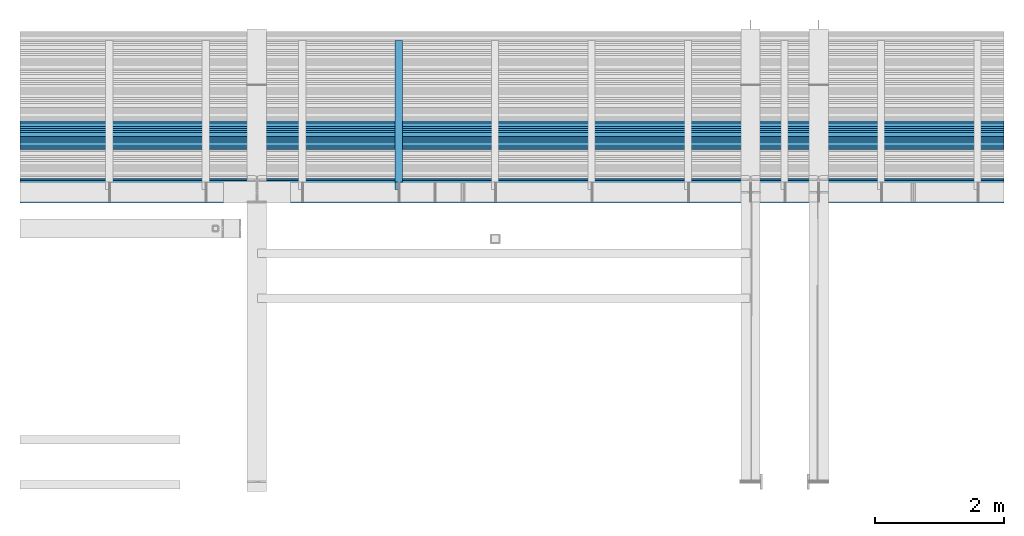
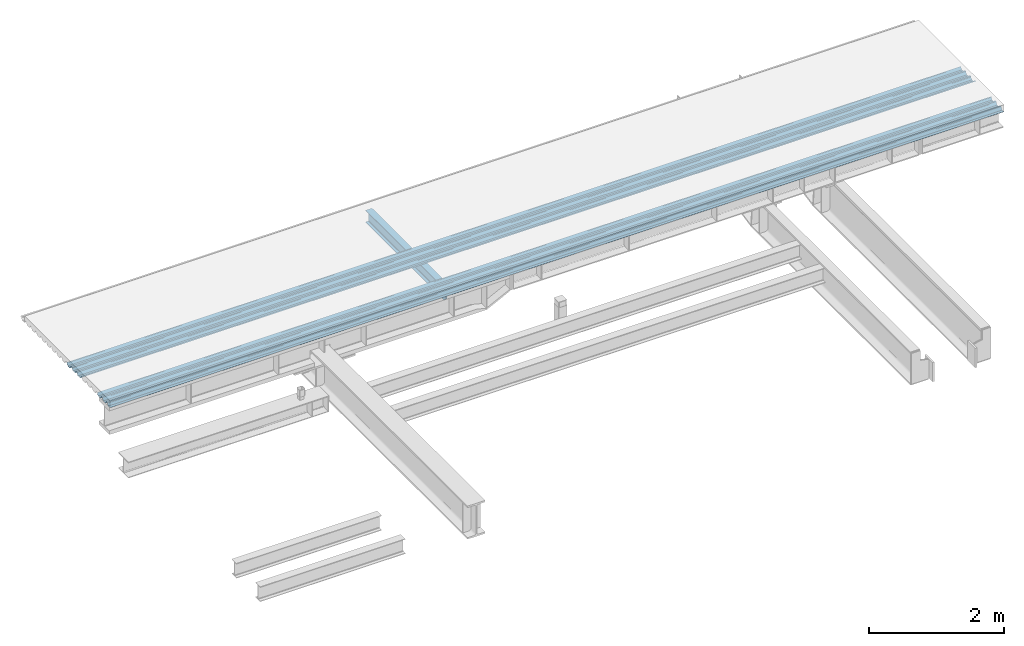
# One storey, part 7 of 12: 3 beams.
"""IFC2X3 building model written with IfcOpenShell, lengths in millimetres."""

from ifc_helpers import new_model, entity, si_unit, converted_unit, derived_unit, direction, frame, origin_with_axes, place, context, subcontext, project, spatial, faceted_brep, type_object, element, save


model = new_model("IFC2X3")

# Units and contexts
model_context = context("Model", 3, precision=0.01, world=frame((0.0, 4.29681676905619e-09, 0.0)), true_north=direction((4.01073788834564e-13, 1.0)))
plan_context = context("Plan", 3, precision=0.01, world=frame((0.0, 4.29681676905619e-09, 0.0)), true_north=direction((4.01073788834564e-13, 1.0)))
body_context = subcontext(model_context, "Body", "Model", "MODEL_VIEW")
ifc_project = project(units=[converted_unit("PLANEANGLEUNIT", "DEGREE", entity("IfcPositiveLengthMeasure", 0.0174532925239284), si_unit("PLANEANGLEUNIT", "RADIAN"), dimensions=[0, 0, 0, 0, 0, 0, 0]), si_unit("AREAUNIT", "SQUARE_METRE"), si_unit("LENGTHUNIT", "METRE", prefix="MILLI"), si_unit("MASSUNIT", "GRAM", prefix="KILO"), si_unit("POWERUNIT", "WATT"), si_unit("PRESSUREUNIT", "PASCAL"), si_unit("FORCEUNIT", "NEWTON", prefix="KILO"), si_unit("ELECTRICVOLTAGEUNIT", "VOLT"), si_unit("ELECTRICCURRENTUNIT", "AMPERE"), si_unit("THERMODYNAMICTEMPERATUREUNIT", "DEGREE_CELSIUS"), si_unit("TIMEUNIT", "SECOND"), si_unit("VOLUMEUNIT", "CUBIC_METRE"), derived_unit("LINEARVELOCITYUNIT", [(si_unit("LENGTHUNIT", "METRE"), 1), (si_unit("TIMEUNIT", "SECOND"), -1)]), derived_unit("VOLUMETRICFLOWRATEUNIT", [(si_unit("VOLUMEUNIT", "CUBIC_METRE"), 1), (si_unit("TIMEUNIT", "SECOND"), -1)]), derived_unit("THERMALTRANSMITTANCEUNIT", [(si_unit("POWERUNIT", "WATT"), 1), (si_unit("THERMODYNAMICTEMPERATUREUNIT", "KELVIN"), -1), (si_unit("AREAUNIT", "SQUARE_METRE"), -1)]), derived_unit("SOUNDPRESSUREUNIT", [(si_unit("PRESSUREUNIT", "PASCAL"), 1)])], contexts=[model_context, plan_context])

# Site, building, storey
site_placement = place(None, frame((0.0, -4.29681676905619e-09, 0.0), z_axis=(0.0, 0.0, 1.0), x_axis=(1.0, 0.0, 0.0)))
site = spatial("IfcSite", under=ifc_project, at=site_placement, Name="Gardermoen", CompositionType="ELEMENT")
building_placement = place(site_placement, frame((0.0, 4.29681676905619e-09, 0.0), z_axis=(0.0, 0.0, 1.0), x_axis=(1.0, 0.0, 0.0)))
building = spatial("IfcBuilding", under=site, at=building_placement, Name="TH", CompositionType="ELEMENT")
storey_placement = place(building_placement, origin_with_axes())
storey = spatial("IfcBuildingStorey", under=building, at=storey_placement, Name="D", CompositionType="ELEMENT", Elevation=0.0)

# Beams
beam_type_1 = type_object("IfcBeamType", Name="PLANNJACD45_H", PredefinedType="NOTDEFINED")
beam_1_placement = place(storey_placement, frame((886883.999728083, 485886.307461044, 210062.950004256), z_axis=(0.0, 0.0, 1.0), x_axis=(1.0, 0.0, 0.0)))
element("IfcBeam", 1, at=beam_1_placement, inside=storey, type_object=beam_type_1, Name="STÅLDEKKE", ObjectType="PLANNJACD45_H", context=body_context, shape_type="Brep", body=[
    faceted_brep([(8227.90644048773, 133.300002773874, -22.9500007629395), (8227.90644048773, 102.900001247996, 7.44999837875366), (23526.5851137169, 102.900001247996, 7.44999837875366), (23526.5851137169, 133.300002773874, -22.9500007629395), (8227.90644048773, 110.400001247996, 14.9500007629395), (23526.5851137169, 110.400001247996, 14.9500007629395), (8227.90644048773, 103.300002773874, 22.0500011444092), (23526.5851137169, 103.300002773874, 22.0500011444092), (8227.90644048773, 73.3000027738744, 22.0500011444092), (23526.5851137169, 73.3000027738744, 22.0500011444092), (8227.90644048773, 66.2000042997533, 14.9500007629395), (23526.5851137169, 66.2000042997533, 14.9500007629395), (8227.90644048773, 73.7000042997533, 7.4500036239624), (23526.5851137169, 73.7000042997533, 7.4500036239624), (8227.90644048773, 43.2999989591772, -22.9499988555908), (23526.5851137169, 43.2999989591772, -22.9499988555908), (8227.90644048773, -16.6999972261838, -22.9500045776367), (23526.5851137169, -16.6999972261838, -22.9500045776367), (8227.90644048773, -47.0999987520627, 7.44999837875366), (23526.5851137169, -47.0999987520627, 7.44999837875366), (8227.90644048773, -39.6000025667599, 14.9499959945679), (23526.5851137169, -39.6000025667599, 14.9499959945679), (8227.90644048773, -46.7000086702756, 22.0500011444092), (23526.5851137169, -46.7000086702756, 22.0500011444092), (8227.90644048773, -76.6999972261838, 22.0500011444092), (23526.5851137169, -76.6999972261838, 22.0500011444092), (8227.90644048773, -83.7999880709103, 14.9500064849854), (23526.5851137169, -83.7999880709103, 14.9500064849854), (8227.90644048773, -76.2999957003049, 7.4500093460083), (23526.5851137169, -76.2999957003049, 7.4500093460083), (8227.90644048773, -106.699997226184, -22.9499931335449), (23526.5851137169, -106.699997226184, -22.9499931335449), (8227.90644048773, -166.700012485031, -22.9500045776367), (23526.5851137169, -166.700012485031, -22.9500045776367), (8227.90644048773, -197.100006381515, 7.44999837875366), (23526.5851137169, -197.100006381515, 7.44999837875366), (8227.90644048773, -189.600006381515, 14.9499959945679), (23526.5851137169, -189.600006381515, 14.9499959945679), (8227.90644048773, -196.700012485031, 22.0500011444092), (23526.5851137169, -196.700012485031, 22.0500011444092), (8227.90644048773, -223.699981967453, 22.0500011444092), (23526.5851137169, -223.699981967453, 22.0500011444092), (8227.90644048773, -223.699997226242, 22.9500045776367), (23526.5851137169, -223.699997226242, 22.9500045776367), (8227.90644048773, -196.300003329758, 22.8500061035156), (23526.5851137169, -196.300003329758, 22.8500061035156), (8227.90644048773, -188.399994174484, 14.9499959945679), (23526.5851137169, -188.399994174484, 14.9499959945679), (8227.90644048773, -195.899994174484, 7.44999837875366), (23526.5851137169, -195.899994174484, 7.44999837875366), (8227.90644048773, -166.299988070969, -22.0500011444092), (23526.5851137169, -166.299988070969, -22.0500011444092), (8227.90644048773, -107.099998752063, -22.1499996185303), (23526.5851137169, -107.099998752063, -22.1499996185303), (8227.90644048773, -77.5000002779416, 7.44999837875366), (23526.5851137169, -77.5000002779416, 7.44999837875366), (8227.90644048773, -85.0000002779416, 14.9499959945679), (23526.5851137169, -85.0000002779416, 14.9499959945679), (8227.90644048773, -77.0999987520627, 22.9499931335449), (23526.5851137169, -77.0999987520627, 22.9499931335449), (8227.90644048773, -46.2999957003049, 22.8500061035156), (23526.5851137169, -46.2999957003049, 22.8500061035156), (8227.90644048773, -38.399994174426, 14.9500064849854), (23526.5851137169, -38.399994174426, 14.9500064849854), (8227.90644048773, -45.9000018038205, 7.44999837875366), (23526.5851137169, -45.9000018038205, 7.44999837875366), (8227.90644048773, -16.300005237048, -22.0500011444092), (23526.5851137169, -16.300005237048, -22.0500011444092), (8227.90644048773, 42.9000050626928, -22.1499938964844), (23526.5851137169, 42.9000050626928, -22.1499938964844), (8227.90644048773, 72.5000073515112, 7.4500036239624), (23526.5851137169, 72.5000073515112, 7.4500036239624), (8227.90644048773, 65.0000073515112, 14.9500007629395), (23526.5851137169, 65.0000073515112, 14.9500007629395), (8227.90644048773, 72.9000088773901, 22.9499988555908), (23526.5851137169, 72.9000088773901, 22.9499988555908), (8227.90644048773, 103.700004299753, 22.8500003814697), (23526.5851137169, 103.700004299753, 22.8500003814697), (8227.90644048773, 111.599998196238, 14.9500007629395), (23526.5851137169, 111.599998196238, 14.9500007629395), (8227.90644048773, 104.100005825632, 7.4500036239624), (23526.5851137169, 104.100005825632, 7.4500036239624), (8227.90644048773, 133.699996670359, -22.0499992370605), (23526.5851137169, 133.699996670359, -22.0499992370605), (8227.90644048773, 192.90000887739, -22.1499977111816), (23526.5851137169, 192.90000887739, -22.1499977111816), (8227.90644048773, 222.499999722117, 7.45000123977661), (23526.5851137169, 222.499999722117, 7.45000123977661), (8227.90644048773, 214.999999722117, 14.9500007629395), (23526.5851137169, 214.999999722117, 14.9500007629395), (8227.90644048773, 222.90000887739, 22.9500007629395), (23526.5851137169, 222.90000887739, 22.9500007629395), (8227.90644048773, 223.300002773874, 22.0500011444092), (23526.5851137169, 223.300002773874, 22.0500011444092), (8227.90644048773, 216.199996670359, 14.9500007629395), (23526.5851137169, 216.199996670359, 14.9500007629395), (8227.90644048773, 223.699996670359, 7.45000123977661), (23526.5851137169, 223.699996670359, 7.45000123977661), (8227.90644048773, 193.300002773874, -22.9499988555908), (23526.5851137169, 193.300002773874, -22.9499988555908)], [[[0, 1, 2, 3]], [[1, 4, 5, 2]], [[4, 6, 7, 5]], [[6, 8, 9, 7]], [[8, 10, 11, 9]], [[10, 12, 13, 11]], [[12, 14, 15, 13]], [[14, 16, 17, 15]], [[16, 18, 19, 17]], [[18, 20, 21, 19]], [[20, 22, 23, 21]], [[22, 24, 25, 23]], [[24, 26, 27, 25]], [[26, 28, 29, 27]], [[28, 30, 31, 29]], [[30, 32, 33, 31]], [[32, 34, 35, 33]], [[34, 36, 37, 35]], [[36, 38, 39, 37]], [[38, 40, 41, 39]], [[40, 42, 43, 41]], [[42, 44, 45, 43]], [[44, 46, 47, 45]], [[46, 48, 49, 47]], [[48, 50, 51, 49]], [[50, 52, 53, 51]], [[52, 54, 55, 53]], [[54, 56, 57, 55]], [[56, 58, 59, 57]], [[58, 60, 61, 59]], [[60, 62, 63, 61]], [[62, 64, 65, 63]], [[64, 66, 67, 65]], [[66, 68, 69, 67]], [[68, 70, 71, 69]], [[70, 72, 73, 71]], [[72, 74, 75, 73]], [[74, 76, 77, 75]], [[76, 78, 79, 77]], [[78, 80, 81, 79]], [[80, 82, 83, 81]], [[82, 84, 85, 83]], [[84, 86, 87, 85]], [[86, 88, 89, 87]], [[88, 90, 91, 89]], [[90, 92, 93, 91]], [[92, 94, 95, 93]], [[94, 96, 97, 95]], [[96, 98, 99, 97]], [[98, 0, 3, 99]], [[5, 7, 9, 11, 13, 15, 17, 19, 21, 23, 25, 27, 29, 31, 33, 35, 37, 39, 41, 43, 45, 47, 49, 51, 53, 55, 57, 59, 61, 63, 65, 67, 69, 71, 73, 75, 77, 79, 81, 83, 85, 87, 89, 91, 93, 95, 97, 99, 3, 2]], [[98, 96, 94, 92, 90, 88, 86, 84, 82, 80, 78, 76, 74, 72, 70, 68, 66, 64, 62, 60, 58, 56, 54, 52, 50, 48, 46, 44, 42, 40, 38, 36, 34, 32, 30, 28, 26, 24, 22, 20, 18, 16, 14, 12, 10, 8, 6, 4, 1, 0]]], orient=[[False], [False], [False], [False], [False], [False], [False], [False], [False], [False], [False], [False], [False], [False], [False], [False], [False], [False], [False], [False], [False], [False], [False], [False], [False], [False], [False], [False], [False], [False], [False], [False], [False], [False], [False], [False], [False], [False], [False], [False], [False], [False], [False], [False], [False], [False], [False], [False], [False], [False], [False], [False]]),
])
beam_2_placement = place(storey_placement, frame((886883.999728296, 484986.707461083, 210062.950004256), z_axis=(0.0, 0.0, 1.0), x_axis=(1.0, 0.0, 0.0)))
element("IfcBeam", 2, at=beam_2_placement, inside=storey, type_object=beam_type_1, Name="STÅLDEKKE", ObjectType="PLANNJACD45_H", context=body_context, shape_type="Brep", body=[
    faceted_brep([(8227.9064402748, 133.300002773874, -22.9500007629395), (8227.9064402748, 102.900001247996, 7.44999837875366), (23526.585113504, 102.900001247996, 7.44999837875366), (23526.585113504, 133.300002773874, -22.9500007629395), (8227.9064402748, 110.400001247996, 14.9500007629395), (23526.585113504, 110.400001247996, 14.9500007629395), (8227.9064402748, 103.300002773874, 22.0500011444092), (23526.585113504, 103.300002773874, 22.0500011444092), (8227.9064402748, 73.3000027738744, 22.0500011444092), (23526.585113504, 73.3000027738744, 22.0500011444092), (8227.9064402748, 66.2000042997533, 14.9500007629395), (23526.585113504, 66.2000042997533, 14.9500007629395), (8227.9064402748, 73.7000042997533, 7.4500036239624), (23526.585113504, 73.7000042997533, 7.4500036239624), (8227.9064402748, 43.2999989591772, -22.9499988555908), (23526.585113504, 43.2999989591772, -22.9499988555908), (8227.9064402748, -16.6999972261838, -22.9500045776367), (23526.585113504, -16.6999972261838, -22.9500045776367), (8227.9064402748, -47.0999987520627, 7.44999837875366), (23526.585113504, -47.0999987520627, 7.44999837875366), (8227.9064402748, -39.6000025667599, 14.9499959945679), (23526.585113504, -39.6000025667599, 14.9499959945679), (8227.9064402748, -46.7000086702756, 22.0500011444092), (23526.585113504, -46.7000086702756, 22.0500011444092), (8227.9064402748, -76.6999972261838, 22.0500011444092), (23526.585113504, -76.6999972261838, 22.0500011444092), (8227.9064402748, -83.7999880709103, 14.9500064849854), (23526.585113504, -83.7999880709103, 14.9500064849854), (8227.9064402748, -76.2999957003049, 7.4500093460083), (23526.585113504, -76.2999957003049, 7.4500093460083), (8227.9064402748, -106.699997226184, -22.9499931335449), (23526.585113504, -106.699997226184, -22.9499931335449), (23526.585113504, -156.696850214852, -22.9500026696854), (8227.9064402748, -156.696850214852, -22.9500026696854), (8227.9064402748, -156.696850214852, -22.0662224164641), (8227.9064402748, -107.099998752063, -22.1499996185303), (23526.585113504, -107.099998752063, -22.1499996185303), (23526.585113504, -156.696850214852, -22.0662224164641), (8227.9064402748, -77.5000002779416, 7.44999837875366), (23526.585113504, -77.5000002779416, 7.44999837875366), (8227.9064402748, -85.0000002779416, 14.9499959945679), (23526.585113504, -85.0000002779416, 14.9499959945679), (8227.9064402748, -77.0999987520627, 22.9499931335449), (23526.585113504, -77.0999987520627, 22.9499931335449), (8227.9064402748, -46.2999957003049, 22.8500061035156), (23526.585113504, -46.2999957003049, 22.8500061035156), (8227.9064402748, -38.399994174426, 14.9500064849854), (23526.585113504, -38.399994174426, 14.9500064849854), (8227.9064402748, -45.9000018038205, 7.44999837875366), (23526.585113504, -45.9000018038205, 7.44999837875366), (8227.9064402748, -16.300005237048, -22.0500011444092), (23526.585113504, -16.300005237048, -22.0500011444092), (8227.9064402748, 42.9000050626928, -22.1499938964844), (23526.585113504, 42.9000050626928, -22.1499938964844), (8227.9064402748, 72.5000073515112, 7.4500036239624), (23526.585113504, 72.5000073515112, 7.4500036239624), (8227.9064402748, 65.0000073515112, 14.9500007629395), (23526.585113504, 65.0000073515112, 14.9500007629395), (8227.9064402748, 72.9000088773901, 22.9499988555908), (23526.585113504, 72.9000088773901, 22.9499988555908), (8227.9064402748, 103.700004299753, 22.8500003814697), (23526.585113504, 103.700004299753, 22.8500003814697), (8227.9064402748, 111.599998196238, 14.9500007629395), (23526.585113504, 111.599998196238, 14.9500007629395), (8227.9064402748, 104.100005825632, 7.4500036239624), (23526.585113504, 104.100005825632, 7.4500036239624), (8227.9064402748, 133.699996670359, -22.0499992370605), (23526.585113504, 133.699996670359, -22.0499992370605), (8227.9064402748, 192.90000887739, -22.1499977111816), (23526.585113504, 192.90000887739, -22.1499977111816), (8227.9064402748, 222.499999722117, 7.45000123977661), (23526.585113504, 222.499999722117, 7.45000123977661), (8227.9064402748, 214.999999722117, 14.9500007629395), (23526.585113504, 214.999999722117, 14.9500007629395), (8227.9064402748, 222.90000887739, 22.9500007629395), (23526.585113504, 222.90000887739, 22.9500007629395), (8227.9064402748, 223.300002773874, 22.0500011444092), (23526.585113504, 223.300002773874, 22.0500011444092), (8227.9064402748, 216.199996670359, 14.9500007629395), (23526.585113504, 216.199996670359, 14.9500007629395), (8227.9064402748, 223.699996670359, 7.45000123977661), (23526.585113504, 223.699996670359, 7.45000123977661), (8227.9064402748, 193.300002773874, -22.9499988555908), (23526.585113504, 193.300002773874, -22.9499988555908)], [[[0, 1, 2, 3]], [[1, 4, 5, 2]], [[4, 6, 7, 5]], [[6, 8, 9, 7]], [[8, 10, 11, 9]], [[10, 12, 13, 11]], [[12, 14, 15, 13]], [[14, 16, 17, 15]], [[16, 18, 19, 17]], [[18, 20, 21, 19]], [[20, 22, 23, 21]], [[22, 24, 25, 23]], [[24, 26, 27, 25]], [[26, 28, 29, 27]], [[28, 30, 31, 29]], [[32, 31, 30, 33]], [[34, 35, 36, 37]], [[35, 38, 39, 36]], [[38, 40, 41, 39]], [[40, 42, 43, 41]], [[42, 44, 45, 43]], [[44, 46, 47, 45]], [[46, 48, 49, 47]], [[48, 50, 51, 49]], [[50, 52, 53, 51]], [[52, 54, 55, 53]], [[54, 56, 57, 55]], [[56, 58, 59, 57]], [[58, 60, 61, 59]], [[60, 62, 63, 61]], [[62, 64, 65, 63]], [[64, 66, 67, 65]], [[66, 68, 69, 67]], [[68, 70, 71, 69]], [[70, 72, 73, 71]], [[72, 74, 75, 73]], [[74, 76, 77, 75]], [[76, 78, 79, 77]], [[78, 80, 81, 79]], [[80, 82, 83, 81]], [[82, 0, 3, 83]], [[37, 32, 33, 34]], [[5, 7, 9, 11, 13, 15, 17, 19, 21, 23, 25, 27, 29, 31, 32, 37, 36, 39, 41, 43, 45, 47, 49, 51, 53, 55, 57, 59, 61, 63, 65, 67, 69, 71, 73, 75, 77, 79, 81, 83, 3, 2]], [[82, 80, 78, 76, 74, 72, 70, 68, 66, 64, 62, 60, 58, 56, 54, 52, 50, 48, 46, 44, 42, 40, 38, 35, 34, 33, 30, 28, 26, 24, 22, 20, 18, 16, 14, 12, 10, 8, 6, 4, 1, 0]]], orient=[[False], [False], [False], [False], [False], [False], [False], [False], [False], [False], [False], [False], [False], [False], [False], [False], [False], [False], [False], [False], [False], [False], [False], [False], [False], [False], [False], [False], [False], [False], [False], [False], [False], [False], [False], [False], [False], [False], [False], [False], [False], [False], [False], [False]]),
])
beam_type_2 = type_object("IfcBeamType", Name="IPE220", PredefinedType="NOTDEFINED")
beam_3_placement = place(storey_placement, frame((900999.999781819, 484999.995625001, 209930.0), z_axis=(0.0, 0.0, 1.0), x_axis=(0.0, 1.0, 0.0)))
element("IfcBeam", 3, at=beam_3_placement, inside=storey, type_object=beam_type_2, Name="STÅLBJELKE", ObjectType="IPE220", context=body_context, shape_type="Brep", body=[
    faceted_brep([(2357.65437500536, -55.0, -110.0), (2357.65437500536, 55.0, -110.0), (39.9999999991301, 55.0, -110.0), (39.9999999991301, -2.9500000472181, -110.0), (159.999999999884, -2.95000004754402, -110.0), (159.999999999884, -55.0, -110.0), (2357.65437500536, -55.0, -100.800000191), (159.999999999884, -55.0, -100.800000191), (2357.65437500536, -14.9500000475, -100.800000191), (159.999999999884, -14.9500000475, -100.800000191), (2357.65437500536, -12.6089161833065, -100.569423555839), (159.999999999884, -12.6089161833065, -100.569423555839), (2357.65437500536, -10.3577988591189, -99.8865545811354), (159.999999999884, -10.3577988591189, -99.8865545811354), (2357.65437500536, -8.28315725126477, -98.7776355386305), (159.999999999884, -8.28315725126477, -98.7776355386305), (2357.65437500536, -6.46471867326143, -97.2852815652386), (159.999999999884, -6.46471867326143, -97.2852815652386), (2357.65437500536, -4.97236469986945, -95.4668429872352), (159.999999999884, -4.97236469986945, -95.4668429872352), (2357.65437500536, -3.86344565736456, -93.3922013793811), (159.999999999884, -3.86344565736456, -93.3922013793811), (2357.65437500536, -3.18057668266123, -91.1410840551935), (159.999999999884, -3.18057668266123, -91.1410840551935), (2357.65437500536, -2.9500000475, -88.800000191), (159.999999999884, -3.06818971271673, -90.0), (39.9999999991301, -3.06818971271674, -90.0), (39.9999999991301, -2.9500000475, -88.800000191), (2357.65437500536, -2.9500000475, 88.800000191), (39.9999999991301, -2.9500000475, 30.0), (150.000000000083, -2.95000004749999, 29.9999999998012), (151.564344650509, -2.95000004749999, 30.1231165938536), (153.090169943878, -2.95000004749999, 30.4894348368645), (154.539904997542, -2.95000004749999, 31.0899347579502), (155.877852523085, -2.95000004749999, 31.9098300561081), (157.071067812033, -2.95000004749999, 32.9289321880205), (158.090169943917, -2.95000004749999, 34.1221474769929), (158.910065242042, -2.95000004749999, 35.4600950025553), (159.510565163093, -2.95000004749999, 36.9098300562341), (159.876883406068, -2.95000004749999, 38.435655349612), (160.000000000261, -2.95000004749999, 39.999999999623), (160.000000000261, -2.9500000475, 88.800000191), (2357.65437500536, -3.18057668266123, 91.1410840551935), (160.000000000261, -3.18057668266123, 91.1410840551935), (2357.65437500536, -3.86344565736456, 93.3922013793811), (160.000000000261, -3.86344565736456, 93.3922013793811), (2357.65437500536, -4.97236469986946, 95.4668429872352), (160.000000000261, -4.97236469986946, 95.4668429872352), (2357.65437500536, -6.46471867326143, 97.2852815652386), (160.000000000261, -6.46471867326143, 97.2852815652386), (2357.65437500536, -8.28315725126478, 98.7776355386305), (160.000000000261, -8.28315725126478, 98.7776355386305), (2357.65437500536, -10.3577988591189, 99.8865545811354), (160.000000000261, -10.3577988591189, 99.8865545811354), (2357.65437500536, -12.6089161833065, 100.569423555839), (160.000000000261, -12.6089161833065, 100.569423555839), (2357.65437500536, -14.9500000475, 100.800000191), (160.000000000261, -14.9500000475, 100.800000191), (2357.65437500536, -55.0, 100.800000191), (160.000000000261, -55.0, 100.800000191), (2357.65437500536, -55.0, 110.0), (160.000000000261, -55.0, 110.0), (2357.65437500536, 55.0, 110.0), (160.000000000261, 55.0, 110.0), (2357.65437500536, 55.0, 100.800000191), (160.000000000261, 55.0, 100.800000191), (2357.65437500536, 14.9500000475, 100.800000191), (160.000000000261, 14.9500000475, 100.800000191), (2357.65437500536, 12.6089161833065, 100.569423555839), (160.000000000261, 12.6089161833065, 100.569423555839), (2357.65437500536, 10.3577988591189, 99.8865545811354), (160.000000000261, 10.3577988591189, 99.8865545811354), (2357.65437500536, 8.28315725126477, 98.7776355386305), (160.000000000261, 8.28315725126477, 98.7776355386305), (2357.65437500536, 6.46471867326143, 97.2852815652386), (160.000000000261, 6.46471867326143, 97.2852815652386), (2357.65437500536, 4.97236469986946, 95.4668429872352), (160.000000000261, 4.97236469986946, 95.4668429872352), (2357.65437500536, 3.86344565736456, 93.3922013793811), (160.000000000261, 3.86344565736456, 93.3922013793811), (2357.65437500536, 3.18057668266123, 91.1410840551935), (160.000000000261, 3.18057668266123, 91.1410840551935), (2357.65437500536, 2.9500000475, 88.800000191), (160.000000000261, 2.9500000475, 88.800000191), (2357.65437500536, 2.9500000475, -88.800000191), (160.000000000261, 2.9500000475, 39.999999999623), (159.876883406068, 2.9500000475, 38.435655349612), (159.510565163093, 2.9500000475, 36.9098300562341), (158.910065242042, 2.9500000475, 35.4600950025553), (158.090169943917, 2.9500000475, 34.1221474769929), (157.071067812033, 2.9500000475, 32.9289321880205), (155.877852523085, 2.9500000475, 31.9098300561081), (154.539904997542, 2.9500000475, 31.0899347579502), (153.090169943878, 2.9500000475, 30.4894348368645), (151.564344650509, 2.9500000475, 30.1231165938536), (150.000000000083, 2.9500000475, 29.9999999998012), (39.9999999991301, 2.9500000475, 30.0), (39.9999999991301, 2.9500000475, -88.800000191), (2357.65437500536, 3.18057668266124, -91.1410840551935), (39.9999999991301, 3.18057668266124, -91.1410840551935), (2357.65437500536, 3.86344565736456, -93.3922013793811), (39.9999999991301, 3.86344565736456, -93.3922013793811), (2357.65437500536, 4.97236469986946, -95.4668429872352), (39.9999999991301, 4.97236469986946, -95.4668429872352), (2357.65437500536, 6.46471867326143, -97.2852815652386), (39.9999999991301, 6.46471867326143, -97.2852815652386), (2357.65437500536, 8.28315725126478, -98.7776355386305), (39.9999999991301, 8.28315725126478, -98.7776355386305), (2357.65437500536, 10.3577988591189, -99.8865545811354), (39.9999999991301, 10.3577988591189, -99.8865545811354), (2357.65437500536, 12.6089161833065, -100.569423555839), (39.9999999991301, 12.6089161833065, -100.569423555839), (2357.65437500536, 14.9500000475, -100.800000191), (39.9999999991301, 14.9500000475, -100.800000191), (2357.65437500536, 55.0, -100.800000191), (39.9999999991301, 55.0, -100.800000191), (159.999999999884, -2.95000004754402, -90.0), (39.9999999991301, -2.95000004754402, -90.0)], [[[0, 1, 2, 3, 4, 5]], [[6, 0, 5, 7]], [[8, 6, 7, 9]], [[10, 8, 9, 11]], [[12, 10, 11, 13]], [[14, 12, 13, 15]], [[16, 14, 15, 17]], [[18, 16, 17, 19]], [[20, 18, 19, 21]], [[22, 20, 21, 23]], [[24, 22, 23, 25, 26, 27]], [[28, 24, 27, 29, 30, 31, 32, 33, 34, 35, 36, 37, 38, 39, 40, 41]], [[42, 28, 41, 43]], [[44, 42, 43, 45]], [[46, 44, 45, 47]], [[48, 46, 47, 49]], [[50, 48, 49, 51]], [[52, 50, 51, 53]], [[54, 52, 53, 55]], [[56, 54, 55, 57]], [[58, 56, 57, 59]], [[60, 58, 59, 61]], [[62, 60, 61, 63]], [[64, 62, 63, 65]], [[66, 64, 65, 67]], [[68, 66, 67, 69]], [[70, 68, 69, 71]], [[72, 70, 71, 73]], [[74, 72, 73, 75]], [[76, 74, 75, 77]], [[78, 76, 77, 79]], [[80, 78, 79, 81]], [[82, 80, 81, 83]], [[84, 82, 83, 85, 86, 87, 88, 89, 90, 91, 92, 93, 94, 95, 96, 97]], [[98, 84, 97, 99]], [[100, 98, 99, 101]], [[102, 100, 101, 103]], [[104, 102, 103, 105]], [[106, 104, 105, 107]], [[108, 106, 107, 109]], [[110, 108, 109, 111]], [[112, 110, 111, 113]], [[114, 112, 113, 115]], [[1, 114, 115, 2]], [[116, 25, 23, 21, 19, 17, 15, 13, 11, 9, 7, 5, 4]], [[116, 117, 26, 25]], [[116, 4, 3, 117]], [[30, 29, 96, 95]], [[95, 94, 31, 30]], [[94, 93, 32, 31]], [[93, 92, 33, 32]], [[92, 91, 34, 33]], [[91, 90, 35, 34]], [[90, 89, 36, 35]], [[89, 88, 37, 36]], [[88, 87, 38, 37]], [[87, 86, 39, 38]], [[86, 85, 40, 39]], [[85, 83, 81, 79, 77, 75, 73, 71, 69, 67, 65, 63, 61, 59, 57, 55, 53, 51, 49, 47, 45, 43, 41, 40]], [[26, 117, 3, 2, 115, 113, 111, 109, 107, 105, 103, 101, 99, 97, 96, 29, 27]], [[6, 8, 10, 12, 14, 16, 18, 20, 22, 24, 28, 42, 44, 46, 48, 50, 52, 54, 56, 58, 60, 62, 64, 66, 68, 70, 72, 74, 76, 78, 80, 82, 84, 98, 100, 102, 104, 106, 108, 110, 112, 114, 1, 0]]], orient=[[False], [False], [False], [False], [False], [False], [False], [False], [False], [False], [False], [False], [False], [False], [False], [False], [False], [False], [False], [False], [False], [False], [False], [False], [False], [False], [False], [False], [False], [False], [False], [False], [False], [False], [False], [False], [False], [False], [False], [False], [False], [False], [False], [False], [False], [False], [False], [False], [False], [False], [False], [False], [False], [False], [False], [False], [False], [False], [False], [False], [False]]),
])

save(model, "model.ifc")
